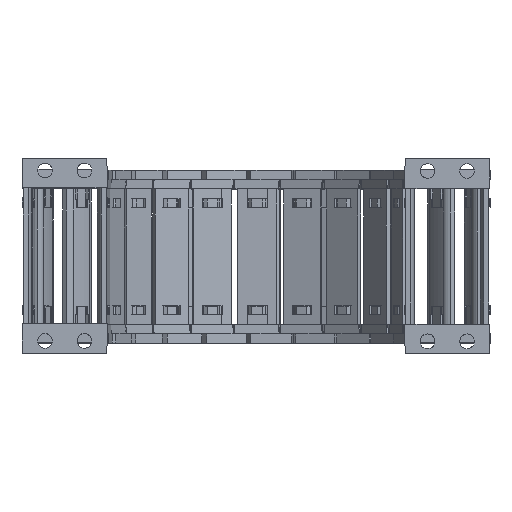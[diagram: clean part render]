
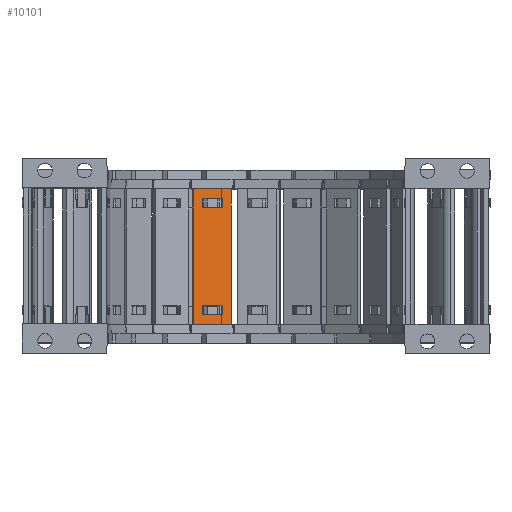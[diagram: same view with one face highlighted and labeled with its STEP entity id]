
A CAD part, top view. The second image highlights one B-rep face of the part: STEP entity #10101.
In plain terms, the highlighted planar face has unit normal (0.259, 0, 0.966).
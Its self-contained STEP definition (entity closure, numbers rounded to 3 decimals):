
#4663=FACE_BOUND('',#23383,.T.);
#4664=FACE_BOUND('',#23384,.T.);
#4665=FACE_BOUND('',#23385,.T.);
#5651=PLANE('',#121248);
#10101=ADVANCED_FACE('',(#4663,#4664,#4665),#5651,.F.);
#23383=EDGE_LOOP('',(#38223,#38224,#38225,#38226));
#23384=EDGE_LOOP('',(#38227,#38228,#38229,#38230));
#23385=EDGE_LOOP('',(#38231,#38232,#38233,#38234));
#38223=ORIENTED_EDGE('',*,*,#81626,.F.);
#38224=ORIENTED_EDGE('',*,*,#81597,.F.);
#38225=ORIENTED_EDGE('',*,*,#81631,.F.);
#38226=ORIENTED_EDGE('',*,*,#81608,.F.);
#38227=ORIENTED_EDGE('',*,*,#81643,.F.);
#38228=ORIENTED_EDGE('',*,*,#81636,.F.);
#38229=ORIENTED_EDGE('',*,*,#81675,.F.);
#38230=ORIENTED_EDGE('',*,*,#81650,.T.);
#38231=ORIENTED_EDGE('',*,*,#81673,.T.);
#38232=ORIENTED_EDGE('',*,*,#81676,.F.);
#38233=ORIENTED_EDGE('',*,*,#81677,.F.);
#38234=ORIENTED_EDGE('',*,*,#81678,.F.);
#69013=VERTEX_POINT('',#171403);
#69014=VERTEX_POINT('',#171405);
#69020=VERTEX_POINT('',#171420);
#69023=VERTEX_POINT('',#171426);
#69040=VERTEX_POINT('',#171483);
#69041=VERTEX_POINT('',#171484);
#69047=VERTEX_POINT('',#171498);
#69050=VERTEX_POINT('',#171506);
#69063=VERTEX_POINT('',#171553);
#69064=VERTEX_POINT('',#171555);
#69065=VERTEX_POINT('',#171560);
#69066=VERTEX_POINT('',#171562);
#81597=EDGE_CURVE('',#69013,#69014,#98089,.T.);
#81608=EDGE_CURVE('',#69023,#69020,#98100,.T.);
#81626=EDGE_CURVE('',#69014,#69023,#98115,.T.);
#81631=EDGE_CURVE('',#69020,#69013,#98120,.T.);
#81636=EDGE_CURVE('',#69040,#69041,#98125,.T.);
#81643=EDGE_CURVE('',#69041,#69047,#98132,.T.);
#81650=EDGE_CURVE('',#69050,#69047,#98139,.T.);
#81673=EDGE_CURVE('',#69064,#69063,#98153,.T.);
#81675=EDGE_CURVE('',#69050,#69040,#98155,.T.);
#81676=EDGE_CURVE('',#69065,#69063,#98156,.T.);
#81677=EDGE_CURVE('',#69066,#69065,#98157,.T.);
#81678=EDGE_CURVE('',#69064,#69066,#98158,.T.);
#98089=LINE('',#171404,#109721);
#98100=LINE('',#171427,#109732);
#98115=LINE('',#171462,#109747);
#98120=LINE('',#171471,#109752);
#98125=LINE('',#171482,#109757);
#98132=LINE('',#171497,#109764);
#98139=LINE('',#171510,#109771);
#98153=LINE('',#171554,#109785);
#98155=LINE('',#171558,#109787);
#98156=LINE('',#171559,#109788);
#98157=LINE('',#171561,#109789);
#98158=LINE('',#171563,#109790);
#109721=VECTOR('',#135874,1.);
#109732=VECTOR('',#135889,1.);
#109747=VECTOR('',#135924,1.);
#109752=VECTOR('',#135933,1.);
#109757=VECTOR('',#135942,1.);
#109764=VECTOR('',#135951,1.);
#109771=VECTOR('',#135960,1.);
#109785=VECTOR('',#136010,1.);
#109787=VECTOR('',#136014,1.);
#109788=VECTOR('',#136015,1.);
#109789=VECTOR('',#136016,1.);
#109790=VECTOR('',#136017,1.);
#121248=AXIS2_PLACEMENT_3D('',#171564,#136018,#136019);
#135874=DIRECTION('',(0.966,0.,-0.259));
#135889=DIRECTION('',(-0.966,0.,0.259));
#135924=DIRECTION('',(0.,1.,0.));
#135933=DIRECTION('',(0.,-1.,0.));
#135942=DIRECTION('',(-0.966,0.,0.259));
#135951=DIRECTION('',(0.,-1.,0.));
#135960=DIRECTION('',(-0.966,0.,0.259));
#136010=DIRECTION('',(0.,-1.,0.));
#136014=DIRECTION('',(0.,1.,0.));
#136015=DIRECTION('',(-0.966,0.,0.259));
#136016=DIRECTION('',(0.,-1.,0.));
#136017=DIRECTION('',(0.966,0.,-0.259));
#136018=DIRECTION('',(-0.259,0.,-0.966));
#136019=DIRECTION('',(-0.966,0.,0.259));
#171403=CARTESIAN_POINT('',(-99.114,-51.03,-76.948));
#171404=CARTESIAN_POINT('',(-99.114,-51.03,-76.948));
#171405=CARTESIAN_POINT('',(-91.242,-51.03,-79.058));
#171420=CARTESIAN_POINT('',(-99.114,-47.382,-76.948));
#171426=CARTESIAN_POINT('',(-91.242,-47.382,-79.058));
#171427=CARTESIAN_POINT('',(-91.242,-47.382,-79.058));
#171462=CARTESIAN_POINT('',(-91.242,-82.46,-79.058));
#171471=CARTESIAN_POINT('',(-99.114,-78.86,-76.948));
#171482=CARTESIAN_POINT('',(-91.242,-3.97,-79.058));
#171483=CARTESIAN_POINT('',(-91.242,-3.97,-79.058));
#171484=CARTESIAN_POINT('',(-99.114,-3.97,-76.948));
#171497=CARTESIAN_POINT('',(-99.114,-3.97,-76.948));
#171498=CARTESIAN_POINT('',(-99.114,-7.618,-76.948));
#171506=CARTESIAN_POINT('',(-91.242,-7.618,-79.058));
#171510=CARTESIAN_POINT('',(-91.242,-7.618,-79.058));
#171553=CARTESIAN_POINT('',(-102.809,-55.,-75.959));
#171554=CARTESIAN_POINT('',(-102.809,0.,-75.959));
#171555=CARTESIAN_POINT('',(-102.809,0.,-75.959));
#171558=CARTESIAN_POINT('',(-91.242,-7.618,-79.058));
#171559=CARTESIAN_POINT('',(-87.547,-55.,-80.048));
#171560=CARTESIAN_POINT('',(-87.547,-55.,-80.048));
#171561=CARTESIAN_POINT('',(-87.547,0.,-80.048));
#171562=CARTESIAN_POINT('',(-87.547,0.,-80.048));
#171563=CARTESIAN_POINT('',(-102.809,0.,-75.959));
#171564=CARTESIAN_POINT('',(-85.46,31.74,-80.607));
